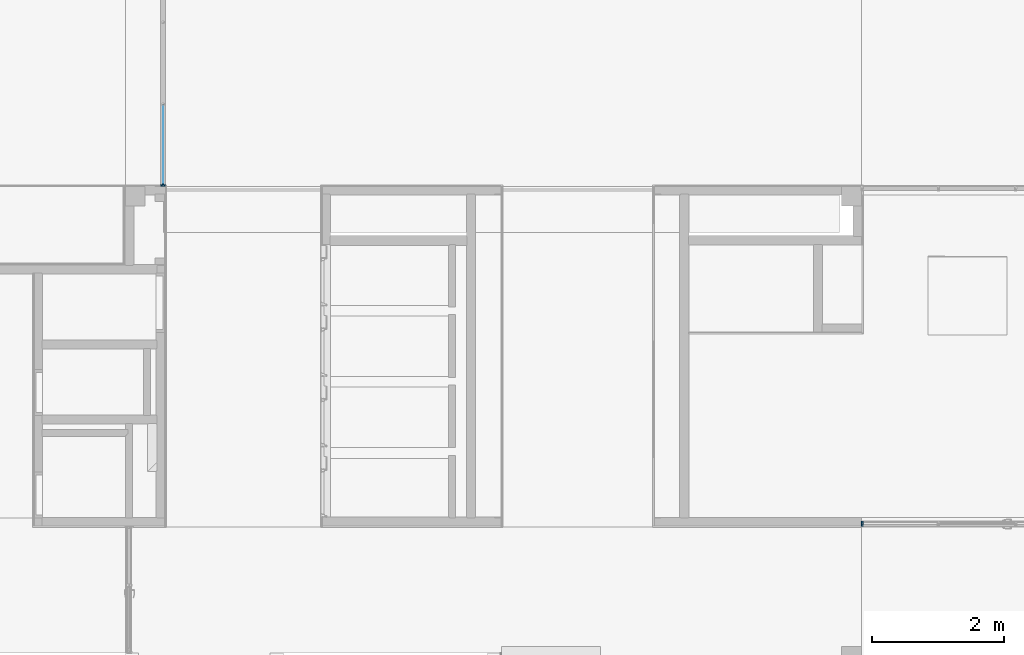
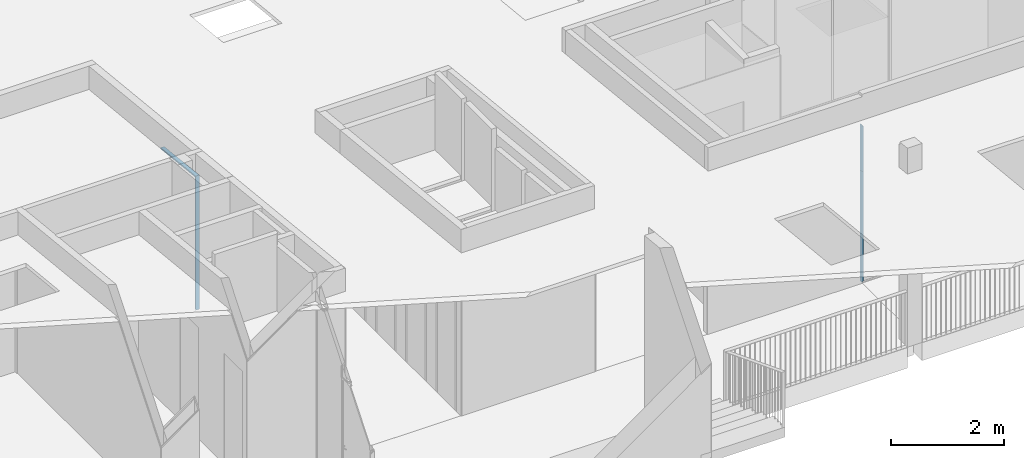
# One storey, part 14 of 43: 4 members, 2 elements without a shape of their own.
"""IFC2X3 building model written with IfcOpenShell, lengths in millimetres."""

import ifcopenshell
import ifcopenshell.guid

model = None  # the IFC model being written
_history = None  # IfcOwnerHistory: only IFC2X3 demands one
_inside = {}  # id of a spatial element -> (the spatial element, [elements in it])
_under = {}  # id of a project, library or spatial element -> (it, [spatial elements below it])
_declared = {}  # id of a project -> (the project, [libraries it declares])
_typed = {}  # id of a type object -> (the type object, [elements of that type])
_made_of = {}  # id of a material, layer set ... -> (it, [elements and type objects made of it])


def new_model(schema):
    """Start an empty IFC model of exactly this schema.

    Asked for "IFC4X3", IfcOpenShell would pick the latest addendum, in which some entities
    have other attributes; the version numbers below select the first issue.
    IFC2X3 requires an IfcOwnerHistory on every rooted entity: one is made here for all.
    """
    global model, _history
    if schema == "IFC4X3":
        model = ifcopenshell.file(schema_version=(4, 3, 0, 0))
    else:
        model = ifcopenshell.file(schema=schema)
    _inside.clear()
    _under.clear()
    _declared.clear()
    _typed.clear()
    _made_of.clear()
    _history = None
    if model.schema == "IFC2X3":
        org = make("IfcOrganization", Name="unknown")
        user = make(
            "IfcPersonAndOrganization",
            ThePerson=make("IfcPerson", FamilyName="unknown"),
            TheOrganization=org,
        )
        app = make(
            "IfcApplication",
            ApplicationDeveloper=org,
            Version="unknown",
            ApplicationFullName="unknown",
            ApplicationIdentifier="unknown",
        )
        _history = make(
            "IfcOwnerHistory",
            OwningUser=user,
            OwningApplication=app,
            ChangeAction="ADDED",
            CreationDate=0,
        )
    return model


def make(cls, **values):
    """One entity of the class cls with the attributes given. An attribute that is None is left unset."""
    return model.create_entity(
        cls, **{name: value for name, value in values.items() if value is not None}
    )


def entity(cls, *values):
    """Any entity or typed value of the class cls, its attributes in the order of the schema. None: left unset."""
    e = model.create_entity(cls)
    for i, value in enumerate(values):
        if value is not None:
            e[i] = value
    return e


def rooted(cls, **values):
    """An entity with a GlobalId (a new one), such as an element, a storey or a relation."""
    return make(cls, GlobalId=ifcopenshell.guid.new(), OwnerHistory=_history, **values)


def si_unit(unit_type, name, prefix=None):
    """IfcSIUnit, for example si_unit("LENGTHUNIT", "METRE", prefix="MILLI")."""
    return make("IfcSIUnit", UnitType=unit_type, Prefix=prefix, Name=name)


def converted_unit(unit_type, name, factor, base, dimensions=None, offset=None):
    """IfcConversionBasedUnit, such as the inch: factor (a typed value) times the base unit."""
    return make(
        "IfcConversionBasedUnit"
        if offset is None
        else "IfcConversionBasedUnitWithOffset",
        ConversionOffset=offset,
        Dimensions=None
        if dimensions is None
        else entity("IfcDimensionalExponents", *dimensions),
        UnitType=unit_type,
        Name=name,
        ConversionFactor=make(
            "IfcMeasureWithUnit", ValueComponent=factor, UnitComponent=base
        ),
    )


def derived_unit(unit_type, elements):
    """IfcDerivedUnit: a product of units, each with its exponent."""
    return make(
        "IfcDerivedUnit",
        Elements=[
            make("IfcDerivedUnitElement", Unit=unit, Exponent=power)
            for unit, power in elements
        ],
        UnitType=unit_type,
    )


def money_unit(currency):
    """IfcMonetaryUnit."""
    return make("IfcMonetaryUnit", Currency=currency)


def assignment(units):
    """IfcUnitAssignment: the units of a project."""
    return None if units is None else make("IfcUnitAssignment", Units=units)


def point(xyz):
    """IfcCartesianPoint."""
    return None if xyz is None else make("IfcCartesianPoint", Coordinates=xyz)


def direction(xyz):
    """IfcDirection."""
    return None if xyz is None else make("IfcDirection", DirectionRatios=xyz)


def frame(location, z_axis=None, x_axis=None):
    """IfcAxis2Placement3D, a coordinate frame: its origin and axes. An axis left out is left unset."""
    return make(
        "IfcAxis2Placement3D",
        Location=point(location),
        Axis=direction(z_axis),
        RefDirection=direction(x_axis),
    )


def origin_with_axes():
    """The frame at (0, 0, 0) with the z axis (0, 0, 1) and the x axis (1, 0, 0) written out."""
    return frame((0.0, 0.0, 0.0), z_axis=(0.0, 0.0, 1.0), x_axis=(1.0, 0.0, 0.0))


def place(relative_to, where):
    """IfcLocalPlacement: puts the frame where relative to a parent placement (None: the world)."""
    return make(
        "IfcLocalPlacement", PlacementRelTo=relative_to, RelativePlacement=where
    )


def context(
    kind, dimensions, precision=None, world=None, true_north=None, identifier=None
):
    """IfcGeometricRepresentationContext, for example the 3D "Model" context."""
    return make(
        "IfcGeometricRepresentationContext",
        ContextIdentifier=identifier,
        ContextType=kind,
        CoordinateSpaceDimension=dimensions,
        Precision=precision,
        WorldCoordinateSystem=world,
        TrueNorth=true_north,
    )


def subcontext(parent, identifier, kind, view, scale=None):
    """IfcGeometricRepresentationSubContext, for example "Body" below "Model"."""
    return make(
        "IfcGeometricRepresentationSubContext",
        ContextIdentifier=identifier,
        ContextType=kind,
        ParentContext=parent,
        TargetScale=scale,
        TargetView=view,
    )


def project(units=None, contexts=None):
    """IfcProject with its units and contexts."""
    return rooted(
        "IfcProject",
        Name="project",
        RepresentationContexts=contexts,
        UnitsInContext=assignment(units),
    )


def spatial(cls, under=None, at=None, **own):
    """A site, building, storey or space (cls), placed at a placement, below another one or the project."""
    s = rooted(cls, ObjectPlacement=at, **own)
    if under is not None:
        _under.setdefault(under.id(), (under, []))[1].append(s)
    return s


def faces_of(points, faces, orient=None, outer=None):
    """IfcFace entities. A face is a list of loops; a loop is a list of indices into points, from 0.

    orient and outer hold one flag for each loop. By default every Orientation is true, the
    first loop of a face is its IfcFaceOuterBound and the others are IfcFaceBound.
    """
    made = []
    for i, loops in enumerate(faces):
        bounds = []
        for j, loop in enumerate(loops):
            is_outer = j == 0 if outer is None else outer[i][j]
            bounds.append(
                make(
                    "IfcFaceOuterBound" if is_outer else "IfcFaceBound",
                    Bound=make("IfcPolyLoop", Polygon=[points[k] for k in loop]),
                    Orientation=True if orient is None else orient[i][j],
                )
            )
        made.append(make("IfcFace", Bounds=bounds))
    return made


def faceted_brep(points, faces, orient=None, outer=None, voids=None):
    """IfcFacetedBrep: a solid bounded by flat faces; with voids (closed shells), ...WithVoids."""
    shared = [point(p) for p in points]
    hull = make("IfcClosedShell", CfsFaces=faces_of(shared, faces, orient, outer))
    if voids is None:
        return make("IfcFacetedBrep", Outer=hull)
    return make(
        "IfcFacetedBrepWithVoids",
        Outer=hull,
        Voids=[
            make(cls, CfsFaces=faces_of(shared, fs, o, b)) for cls, fs, o, b in voids
        ],
    )


def shape(context_of_items, identifier, shape_type, items):
    """IfcShapeRepresentation: the items that make up one representation, for example the "Body"."""
    return make(
        "IfcShapeRepresentation",
        ContextOfItems=context_of_items,
        RepresentationIdentifier=identifier,
        RepresentationType=shape_type,
        Items=items,
    )


def material(Name=None, Category=None):
    """IfcMaterial."""
    return make("IfcMaterial", Name=Name, Category=Category)


def material_list(materials):
    """IfcMaterialList."""
    return make("IfcMaterialList", Materials=materials)


def made_of(thing, what):
    """Note that an element or type object is made of a material, layer set ...; save() writes the relation."""
    if what is not None:
        _made_of.setdefault(what.id(), (what, []))[1].append(thing)
    return thing


def type_object(cls, material=None, **own):
    """A type object (cls), such as IfcWallType, which elements share."""
    return made_of(rooted(cls, **own), material)


def element(
    cls,
    number,
    at=None,
    inside=None,
    cuts=None,
    type_object=None,
    material=None,
    context=None,
    identifier="Body",
    shape_type=None,
    held_by="IfcProductDefinitionShape",
    body=None,
    shapes=None,
    **own,
):
    """One element of the class cls, such as IfcWall. Its Tag is "e" and its number.

    at: its placement. inside: the storey or other place that contains it. cuts: it is an
    opening in that element (IfcRelVoidsElement). A single representation is given by context,
    identifier, shape_type and body (its items); several are given by shapes. held_by: the class
    of the entity that holds the representations. save() writes the other relations.
    """
    e = rooted(cls, Tag="e%d" % number, ObjectPlacement=at, **own)
    if body is not None:
        shapes = [shape(context, identifier, shape_type, body)]
    if shapes is not None:
        e.Representation = make(held_by, Representations=shapes)
    if inside is not None:
        _inside.setdefault(inside.id(), (inside, []))[1].append(e)
    if cuts is not None:
        rooted(
            "IfcRelVoidsElement", RelatingBuildingElement=cuts, RelatedOpeningElement=e
        )
    if type_object is not None:
        _typed.setdefault(type_object.id(), (type_object, []))[1].append(e)
    return made_of(e, material)


def aggregate(whole, parts):
    """IfcRelAggregates: a whole, such as a stair, and the parts it consists of."""
    return rooted("IfcRelAggregates", RelatingObject=whole, RelatedObjects=parts)


def save(model, path):
    """Write the relations noted so far, then the file.

    IfcRelAggregates (storeys below a building ...), IfcRelContainedInSpatialStructure (elements
    in a storey), IfcRelDefinesByType, IfcRelAssociatesMaterial and IfcRelDeclares: one each for
    every whole, place, type object, material and project.
    """
    for whole, parts in _under.values():
        aggregate(whole, parts)
    for where, things in _inside.values():
        rooted(
            "IfcRelContainedInSpatialStructure",
            RelatedElements=things,
            RelatingStructure=where,
        )
    for kind, things in _typed.values():
        rooted("IfcRelDefinesByType", RelatedObjects=things, RelatingType=kind)
    for what, things in _made_of.values():
        rooted("IfcRelAssociatesMaterial", RelatedObjects=things, RelatingMaterial=what)
    for by, libraries in _declared.values():
        rooted("IfcRelDeclares", RelatingContext=by, RelatedDefinitions=libraries)
    model.write(path)


model = new_model("IFC2X3")

# Units and contexts
model_context = context("Model", 3, precision=0.01, world=origin_with_axes(), true_north=direction((0.0, 1.0)))
body_context = subcontext(model_context, "Body", "Model", "MODEL_VIEW")
ifc_project = project(units=[si_unit("LENGTHUNIT", "METRE", prefix="MILLI"), si_unit("AREAUNIT", "SQUARE_METRE"), si_unit("VOLUMEUNIT", "CUBIC_METRE"), converted_unit("PLANEANGLEUNIT", "DEGREE", entity("IfcPlaneAngleMeasure", 0.0174532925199), si_unit("PLANEANGLEUNIT", "RADIAN"), dimensions=[0, 0, 0, 0, 0, 0, 0]), si_unit("SOLIDANGLEUNIT", "STERADIAN"), money_unit("EUR"), converted_unit("TIMEUNIT", "Year", entity("IfcTimeMeasure", 31556926.0), si_unit("TIMEUNIT", "SECOND"), dimensions=[0, 0, 1, 0, 0, 0, 0]), si_unit("MASSUNIT", "GRAM", prefix="KILO"), si_unit("THERMODYNAMICTEMPERATUREUNIT", "DEGREE_CELSIUS"), si_unit("LUMINOUSINTENSITYUNIT", "LUMEN"), si_unit("ENERGYUNIT", "JOULE", prefix="MEGA"), derived_unit("THERMALCONDUCTANCEUNIT", [(si_unit("POWERUNIT", "WATT"), 1), (si_unit("LENGTHUNIT", "METRE"), -1), (si_unit("THERMODYNAMICTEMPERATUREUNIT", "KELVIN"), -1)]), derived_unit("SPECIFICHEATCAPACITYUNIT", [(si_unit("ENERGYUNIT", "JOULE"), 1), (si_unit("MASSUNIT", "GRAM", prefix="KILO"), -1), (si_unit("THERMODYNAMICTEMPERATUREUNIT", "KELVIN"), -1)]), derived_unit("MASSDENSITYUNIT", [(si_unit("MASSUNIT", "GRAM", prefix="KILO"), 1), (si_unit("VOLUMEUNIT", "CUBIC_METRE"), -1)])], contexts=[model_context])

# Site, building, storey
site_placement = place(None, origin_with_axes())
site = spatial("IfcSite", under=ifc_project, at=site_placement, Name="L.Koidula tn 11b", CompositionType="ELEMENT")
building_placement = place(site_placement, origin_with_axes())
building = spatial("IfcBuilding", under=site, at=building_placement, Name="Rakvere Riigigümnaasium", CompositionType="ELEMENT")
storey_placement = place(building_placement, frame((0.0, 0.0, 6665.0), z_axis=(0.0, 0.0, 1.0), x_axis=(1.0, 0.0, 0.0)))
storey = spatial("IfcBuildingStorey", under=building, at=storey_placement, Name="3.korrus +6,66", CompositionType="ELEMENT", Elevation=6665.0)

# Curtain wall, members
curtain_wall_type = type_object("IfcCurtainWallType", Name="Curtain Wall Type", PredefinedType="NOTDEFINED")
curtain_wall_1_placement = place(storey_placement, frame((47567.9999955, 27513.9554945, 0.0), z_axis=(0.0, 0.0, 1.0), x_axis=(1.0, 0.0, 0.0)))
curtain_wall_1 = element("IfcCurtainWall", 1, at=curtain_wall_1_placement, inside=storey, type_object=curtain_wall_type, Name="SKLF-27")
ifc_material_1 = material(Name="Klaasvill")
ifc_material_2 = material(Name="Teras RAL7012")
ifc_material_list = material_list([ifc_material_1, ifc_material_2])
member_type = type_object("IfcMemberType", Name="Boundary Frame 30 x 42", PredefinedType="MULLION")
member_1_placement = place(curtain_wall_1_placement, frame((0.0, -3113.5, 0.0), z_axis=(0.0, 0.0, 1.0), x_axis=(0.0, 1.0, 0.0)))
member_1 = element("IfcMember", 2, at=member_1_placement, type_object=member_type, material=ifc_material_list, Name="SKLF-04-raam", ObjectType="MULLION", context=body_context, shape_type="Brep", body=[
    faceted_brep([(13.8499999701, 15.000000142, 13.8499999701), (13.8499999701, 15.000000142, 2882.5468999), (7.49999990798, 15.000000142, 2889.63189211), (7.49999990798, 15.000000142, 7.49999990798), (13.8499999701, 29.0161444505, 13.8499999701), (13.8499999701, 29.0161444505, 2882.5468999), (7.49999990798, 29.0161444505, 2889.63189211), (7.49999990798, 29.0161444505, 7.49999990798)], [[[0, 1, 2, 3]], [[4, 5, 1, 0]], [[2, 1, 5, 6]], [[3, 2, 6, 7]], [[3, 7, 4, 0]], [[7, 6, 5, 4]]]),
    faceted_brep([(25.004489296, 27.0307503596, 25.004489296), (25.004489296, 27.0307503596, 2870.10131419), (24.987414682, 29.0161444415, 2870.12036514), (24.987414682, 29.0161444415, 24.987414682), (25.742237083, 26.2930025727, 25.742237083), (25.742237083, 26.2930025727, 2869.27817446), (26.7500193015, 26.0229681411, 2868.15374469), (27.75780152, 26.2930025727, 2867.02931491), (28.4955493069, 27.0307503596, 2866.20617518), (28.7655837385, 28.0385325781, 2865.90488513), (28.5126239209, 29.0161444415, 2866.18712423), (28.5126239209, 29.0161444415, 28.5126239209), (28.7655837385, 28.0385325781, 28.7655837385), (28.4955493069, 27.0307503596, 28.4955493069), (27.75780152, 26.2930025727, 27.75780152), (26.7500193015, 26.0229681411, 26.7500193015)], [[[0, 1, 2, 3]], [[4, 5, 1, 0]], [[2, 1, 5, 6, 7, 8, 9, 10]], [[3, 2, 10, 11]], [[3, 11, 12, 13, 14, 15, 4, 0]], [[15, 6, 5, 4]], [[14, 7, 6, 15]], [[13, 8, 7, 14]], [[12, 9, 8, 13]], [[11, 10, 9, 12]]]),
    faceted_brep([(7.49999990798, -39.0161445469, 7.49999990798), (7.49999990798, -39.0161445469, 2889.63189211), (7.49999990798, -24.9999997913, 2889.63189211), (7.49999990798, -24.9999997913, 7.49999990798), (13.8499999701, -39.0161445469, 13.8499999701), (13.8499999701, -39.0161445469, 2882.5468999), (13.8499999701, -24.9999997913, 2882.5468999), (13.8499999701, -24.9999997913, 13.8499999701)], [[[0, 1, 2, 3]], [[4, 5, 1, 0]], [[2, 1, 5, 6]], [[3, 2, 6, 7]], [[3, 7, 4, 0]], [[7, 6, 5, 4]]]),
    faceted_brep([(24.987414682, -39.0161444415, 24.987414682), (24.987414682, -39.0161444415, 2870.12036514), (25.004489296, -37.0307503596, 2870.10131419), (25.004489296, -37.0307503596, 25.004489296), (28.5126239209, -39.0161444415, 28.5126239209), (28.5126239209, -39.0161444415, 2866.18712423), (28.7655837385, -38.0385325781, 2865.90488513), (28.4955493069, -37.0307503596, 2866.20617518), (27.75780152, -36.2930025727, 2867.02931491), (26.7500193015, -36.0229681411, 2868.15374469), (25.742237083, -36.2930025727, 2869.27817446), (25.742237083, -36.2930025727, 25.742237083), (26.7500193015, -36.0229681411, 26.7500193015), (27.75780152, -36.2930025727, 27.75780152), (28.4955493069, -37.0307503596, 28.4955493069), (28.7655837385, -38.0385325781, 28.7655837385)], [[[0, 1, 2, 3]], [[4, 5, 1, 0]], [[2, 1, 5, 6, 7, 8, 9, 10]], [[3, 2, 10, 11]], [[3, 11, 12, 13, 14, 15, 4, 0]], [[15, 6, 5, 4]], [[14, 7, 6, 15]], [[13, 8, 7, 14]], [[12, 9, 8, 13]], [[11, 10, 9, 12]]]),
    faceted_brep([(29.5999996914, -22.0000000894, 29.5999996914), (29.5999996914, -22.0000000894, 2864.9738882), (0.0, -22.0000000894, 2897.99999297), (0.0, -22.0000000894, 0.0), (29.5999996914, 12.0000000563, 29.5999996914), (29.5999996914, 12.0000000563, 2864.9738882), (0.0, 12.0000000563, 2897.99999297), (1.9999999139, 10.0000001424, 2895.76849947), (18.7999996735, 10.0000001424, 2877.0239536), (18.7999996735, -20.0000001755, 2877.0239536), (1.9999999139, -20.0000001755, 2895.76849947), (0.0, 12.0000000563, 0.0), (1.9999999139, 10.0000001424, 1.9999999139), (1.9999999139, -20.0000001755, 1.9999999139), (18.7999996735, -20.0000001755, 18.7999996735), (18.7999996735, 10.0000001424, 18.7999996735)], [[[0, 1, 2, 3]], [[4, 5, 1, 0]], [[2, 1, 5, 6], [7, 8, 9, 10]], [[3, 2, 6, 11]], [[3, 11, 4, 0], [12, 13, 14, 15]], [[11, 6, 5, 4]], [[15, 8, 7, 12]], [[14, 9, 8, 15]], [[13, 10, 9, 14]], [[12, 7, 10, 13]]]),
    faceted_brep([(29.5999996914, 12.0000000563, 29.5999996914), (29.5999996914, 12.0000000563, 2864.9738882), (0.0, 12.0, 2897.99999297), (0.0, 12.0, 0.0), (30.0000193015, 12.0, 30.0000193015), (30.0000193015, 12.0, 2864.5275676), (30.0000193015, 15.0, 2864.5275676), (13.8499999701, 15.000000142, 2882.5468999), (7.49999999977, 15.0, 2889.63189201), (7.49999999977, 29.0161444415, 2889.63189201), (13.8499999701, 29.0161444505, 2882.5468999), (24.987414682, 29.0161444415, 2870.12036514), (28.5126239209, 29.0161444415, 2866.18712423), (30.0000193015, 29.0161444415, 2864.5275676), (30.0000193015, 32.0, 2864.5275676), (0.0, 32.0, 2897.99999297), (0.0, 32.0, 0.0), (30.0000193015, 32.0, 30.0000193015), (30.0000193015, 29.0161444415, 30.0000193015), (28.5126239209, 29.0161444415, 28.5126239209), (24.987414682, 29.0161444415, 24.987414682), (13.8499999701, 29.0161444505, 13.8499999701), (7.49999999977, 29.0161444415, 7.49999999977), (7.49999999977, 15.0, 7.49999999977), (13.8499999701, 15.000000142, 13.8499999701), (30.0000193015, 15.0, 30.0000193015)], [[[0, 1, 2, 3]], [[4, 5, 1, 0]], [[2, 1, 5, 6, 7, 8, 9, 10, 11, 12, 13, 14, 15]], [[3, 2, 15, 16]], [[3, 16, 17, 18, 19, 20, 21, 22, 23, 24, 25, 4, 0]], [[25, 6, 5, 4]], [[24, 7, 6, 25]], [[23, 8, 7, 24]], [[22, 9, 8, 23]], [[21, 10, 9, 22]], [[20, 11, 10, 21]], [[19, 12, 11, 20]], [[18, 13, 12, 19]], [[17, 14, 13, 18]], [[16, 15, 14, 17]]]),
    faceted_brep([(0.0, -42.0, 0.0), (0.0, -42.0, 2897.99999297), (0.0, -22.0, 2897.99999297), (0.0, -22.0, 0.0), (30.0000193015, -42.0, 30.0000193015), (30.0000193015, -42.0, 2864.5275676), (30.0000193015, -39.0161444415, 2864.5275676), (28.5126239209, -39.0161444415, 2866.18712423), (24.987414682, -39.0161444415, 2870.12036514), (13.8499999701, -39.0161445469, 2882.5468999), (7.49999999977, -39.0161444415, 2889.63189201), (7.49999999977, -25.0, 2889.63189201), (13.8499999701, -24.9999997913, 2882.5468999), (30.0000193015, -25.0, 2864.5275676), (30.0000193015, -22.0, 2864.5275676), (29.5999996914, -22.0000000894, 2864.9738882), (29.5999996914, -22.0000000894, 29.5999996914), (30.0000193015, -22.0, 30.0000193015), (30.0000193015, -25.0, 30.0000193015), (13.8499999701, -24.9999997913, 13.8499999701), (7.49999999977, -25.0, 7.49999999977), (7.49999999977, -39.0161444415, 7.49999999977), (13.8499999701, -39.0161445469, 13.8499999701), (24.987414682, -39.0161444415, 24.987414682), (28.5126239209, -39.0161444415, 28.5126239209), (30.0000193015, -39.0161444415, 30.0000193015)], [[[0, 1, 2, 3]], [[4, 5, 1, 0]], [[2, 1, 5, 6, 7, 8, 9, 10, 11, 12, 13, 14, 15]], [[3, 2, 15, 16]], [[3, 16, 17, 18, 19, 20, 21, 22, 23, 24, 25, 4, 0]], [[25, 6, 5, 4]], [[24, 7, 6, 25]], [[23, 8, 7, 24]], [[22, 9, 8, 23]], [[21, 10, 9, 22]], [[20, 11, 10, 21]], [[19, 12, 11, 20]], [[18, 13, 12, 19]], [[17, 14, 13, 18]], [[16, 15, 14, 17]]]),
])
member_2_placement = place(curtain_wall_1_placement, frame((0.0, -3113.5, 2897.99999297), z_axis=(0.0, 0.994032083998, -0.109088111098), x_axis=(0.0, -0.109088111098, -0.994032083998)))
member_2 = element("IfcMember", 3, at=member_2_placement, type_object=member_type, material=ifc_material_list, Name="SKLF-05-raam", ObjectType="MULLION", context=body_context, shape_type="Brep", body=[
    faceted_brep([(13.8499999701, 15.000000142, 15.453093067), (13.8499999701, 15.000000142, 1252.47466378), (7.49999990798, 15.000000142, 1252.47466378), (7.49999990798, 15.000000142, 8.36810085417), (13.8499999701, 29.0161444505, 15.453093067), (13.8499999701, 29.0161444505, 1252.47466378), (7.49999990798, 29.0161444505, 1252.47466378), (7.49999990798, 29.0161444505, 8.36810085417)], [[[0, 1, 2, 3]], [[4, 5, 1, 0]], [[2, 1, 5, 6]], [[3, 2, 6, 7]], [[3, 7, 4, 0]], [[7, 6, 5, 4]]]),
    faceted_brep([(25.004489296, 27.0307503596, 27.8986787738), (25.004489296, 27.0307503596, 1252.47466378), (24.987414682, 29.0161444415, 1252.47466378), (24.987414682, 29.0161444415, 27.879627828), (25.742237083, 26.2930025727, 28.721818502), (25.742237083, 26.2930025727, 1252.47466378), (26.7500193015, 26.0229681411, 1252.47466378), (27.75780152, 26.2930025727, 1252.47466378), (28.4955493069, 27.0307503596, 1252.47466378), (28.7655837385, 28.0385325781, 1252.47466378), (28.5126239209, 29.0161444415, 1252.47466378), (28.5126239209, 29.0161444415, 31.8128687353), (28.7655837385, 28.0385325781, 32.0951078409), (28.4955493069, 27.0307503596, 31.7938177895), (27.75780152, 26.2930025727, 30.9706780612), (26.7500193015, 26.0229681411, 29.8462482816)], [[[0, 1, 2, 3]], [[4, 5, 1, 0]], [[2, 1, 5, 6, 7, 8, 9, 10]], [[3, 2, 10, 11]], [[3, 11, 12, 13, 14, 15, 4, 0]], [[15, 6, 5, 4]], [[14, 7, 6, 15]], [[13, 8, 7, 14]], [[12, 9, 8, 13]], [[11, 10, 9, 12]]]),
    faceted_brep([(7.49999990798, -39.0161445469, 8.36810085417), (7.49999990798, -39.0161445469, 1252.47466378), (7.49999990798, -24.9999997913, 1252.47466378), (7.49999990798, -24.9999997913, 8.36810085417), (13.8499999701, -39.0161445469, 15.453093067), (13.8499999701, -39.0161445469, 1252.47466378), (13.8499999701, -24.9999997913, 1252.47466378), (13.8499999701, -24.9999997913, 15.453093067)], [[[0, 1, 2, 3]], [[4, 5, 1, 0]], [[2, 1, 5, 6]], [[3, 2, 6, 7]], [[3, 7, 4, 0]], [[7, 6, 5, 4]]]),
    faceted_brep([(24.987414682, -39.0161444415, 27.879627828), (24.987414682, -39.0161444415, 1252.47466378), (25.004489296, -37.0307503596, 1252.47466378), (25.004489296, -37.0307503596, 27.8986787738), (28.5126239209, -39.0161444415, 31.8128687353), (28.5126239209, -39.0161444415, 1252.47466378), (28.7655837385, -38.0385325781, 1252.47466378), (28.4955493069, -37.0307503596, 1252.47466378), (27.75780152, -36.2930025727, 1252.47466378), (26.7500193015, -36.0229681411, 1252.47466378), (25.742237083, -36.2930025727, 1252.47466378), (25.742237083, -36.2930025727, 28.721818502), (26.7500193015, -36.0229681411, 29.8462482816), (27.75780152, -36.2930025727, 30.9706780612), (28.4955493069, -37.0307503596, 31.7938177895), (28.7655837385, -38.0385325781, 32.0951078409)], [[[0, 1, 2, 3]], [[4, 5, 1, 0]], [[2, 1, 5, 6, 7, 8, 9, 10]], [[3, 2, 10, 11]], [[3, 11, 12, 13, 14, 15, 4, 0]], [[15, 6, 5, 4]], [[14, 7, 6, 15]], [[13, 8, 7, 14]], [[12, 9, 8, 13]], [[11, 10, 9, 12]]]),
    faceted_brep([(29.5999996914, -22.0000000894, 33.0261047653), (29.5999996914, -22.0000000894, 1252.47466378), (0.0, -22.0000000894, 1252.47466378), (0.0, -22.0000000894, 0.0), (29.5999996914, 12.0000000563, 33.0261047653), (29.5999996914, 12.0000000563, 1252.47466378), (0.0, 12.0000000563, 1252.47466378), (1.9999999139, 10.0000001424, 1252.47466378), (18.7999996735, 10.0000001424, 1252.47466378), (18.7999996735, -20.0000001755, 1252.47466378), (1.9999999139, -20.0000001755, 1252.47466378), (0.0, 12.0000000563, 0.0), (1.9999999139, 10.0000001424, 2.23149349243), (1.9999999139, -20.0000001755, 2.23149349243), (18.7999996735, -20.0000001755, 20.9760393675), (18.7999996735, 10.0000001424, 20.9760393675)], [[[0, 1, 2, 3]], [[4, 5, 1, 0]], [[2, 1, 5, 6], [7, 8, 9, 10]], [[3, 2, 6, 11]], [[3, 11, 4, 0], [12, 13, 14, 15]], [[11, 6, 5, 4]], [[15, 8, 7, 12]], [[14, 9, 8, 15]], [[13, 10, 9, 14]], [[12, 7, 10, 13]]]),
    faceted_brep([(29.5999996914, 12.0000000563, 33.0261047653), (29.5999996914, 12.0000000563, 1252.47466378), (0.0, 12.0, 1252.47466378), (0.0, 12.0, 0.0), (30.0000193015, 12.0, 33.4724253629), (30.0000193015, 12.0, 1252.47466378), (30.0000193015, 15.0, 1252.47466378), (13.8499999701, 15.000000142, 1252.47466378), (7.49999999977, 15.0, 1252.47466378), (7.49999999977, 29.0161444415, 1252.47466378), (13.8499999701, 29.0161444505, 1252.47466378), (24.987414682, 29.0161444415, 1252.47466378), (28.5126239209, 29.0161444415, 1252.47466378), (30.0000193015, 29.0161444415, 1252.47466378), (30.0000193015, 32.0, 1252.47466378), (0.0, 32.0, 1252.47466378), (0.0, 32.0, 0.0), (30.0000193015, 32.0, 33.4724253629), (30.0000193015, 29.0161444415, 33.4724253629), (28.5126239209, 29.0161444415, 31.8128687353), (24.987414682, 29.0161444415, 27.879627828), (13.8499999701, 29.0161444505, 15.453093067), (7.49999999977, 29.0161444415, 8.36810095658), (7.49999999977, 15.0, 8.36810095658), (13.8499999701, 15.000000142, 15.453093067), (30.0000193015, 15.0, 33.4724253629)], [[[0, 1, 2, 3]], [[4, 5, 1, 0]], [[2, 1, 5, 6, 7, 8, 9, 10, 11, 12, 13, 14, 15]], [[3, 2, 15, 16]], [[3, 16, 17, 18, 19, 20, 21, 22, 23, 24, 25, 4, 0]], [[25, 6, 5, 4]], [[24, 7, 6, 25]], [[23, 8, 7, 24]], [[22, 9, 8, 23]], [[21, 10, 9, 22]], [[20, 11, 10, 21]], [[19, 12, 11, 20]], [[18, 13, 12, 19]], [[17, 14, 13, 18]], [[16, 15, 14, 17]]]),
    faceted_brep([(0.0, -42.0, 0.0), (0.0, -42.0, 1252.47466378), (0.0, -22.0, 1252.47466378), (0.0, -22.0, 0.0), (30.0000193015, -42.0, 33.4724253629), (30.0000193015, -42.0, 1252.47466378), (30.0000193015, -39.0161444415, 1252.47466378), (28.5126239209, -39.0161444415, 1252.47466378), (24.987414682, -39.0161444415, 1252.47466378), (13.8499999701, -39.0161445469, 1252.47466378), (7.49999999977, -39.0161444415, 1252.47466378), (7.49999999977, -25.0, 1252.47466378), (13.8499999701, -24.9999997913, 1252.47466378), (30.0000193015, -25.0, 1252.47466378), (30.0000193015, -22.0, 1252.47466378), (29.5999996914, -22.0000000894, 1252.47466378), (29.5999996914, -22.0000000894, 33.0261047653), (30.0000193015, -22.0, 33.4724253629), (30.0000193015, -25.0, 33.4724253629), (13.8499999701, -24.9999997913, 15.453093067), (7.49999999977, -25.0, 8.36810095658), (7.49999999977, -39.0161444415, 8.36810095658), (13.8499999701, -39.0161445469, 15.453093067), (24.987414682, -39.0161444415, 27.879627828), (28.5126239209, -39.0161444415, 31.8128687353), (30.0000193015, -39.0161444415, 33.4724253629)], [[[0, 1, 2, 3]], [[4, 5, 1, 0]], [[2, 1, 5, 6, 7, 8, 9, 10, 11, 12, 13, 14, 15]], [[3, 2, 15, 16]], [[3, 16, 17, 18, 19, 20, 21, 22, 23, 24, 25, 4, 0]], [[25, 6, 5, 4]], [[24, 7, 6, 25]], [[23, 8, 7, 24]], [[22, 9, 8, 23]], [[21, 10, 9, 22]], [[20, 11, 10, 21]], [[19, 12, 11, 20]], [[18, 13, 12, 19]], [[17, 14, 13, 18]], [[16, 15, 14, 17]]]),
])
aggregate(curtain_wall_1, [member_1, member_2])

curtain_wall_2_placement = place(storey_placement, frame((58878.6347232, 19272.4397072, 0.0), z_axis=(0.0, 0.0, 1.0), x_axis=(1.0, 0.0, 0.0)))
curtain_wall_2 = element("IfcCurtainWall", 4, at=curtain_wall_2_placement, inside=storey, type_object=curtain_wall_type, Name="SKLF-29")
member_3_placement = place(curtain_wall_2_placement, frame((-698.599998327, 0.0, 0.0), z_axis=(0.0, 0.0, 1.0), x_axis=(-1.0, 0.0, 0.0)))
member_3 = element("IfcMember", 5, at=member_3_placement, type_object=member_type, material=ifc_material_list, Name="SKLF-36-raam", ObjectType="MULLION", context=body_context, shape_type="Brep", body=[
    faceted_brep([(-13.8499999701, 15.000000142, 13.8499999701), (-7.49999990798, 15.000000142, 7.49999990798), (-7.49999990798, 15.000000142, 2400.0), (-13.8499999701, 15.000000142, 2400.0), (-13.8499999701, 29.0161444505, 13.8499999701), (-7.49999990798, 29.0161444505, 7.49999990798), (-7.49999990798, 29.0161444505, 2400.0), (-13.8499999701, 29.0161444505, 2400.0)], [[[0, 1, 2, 3]], [[1, 0, 4, 5]], [[1, 5, 6, 2]], [[2, 6, 7, 3]], [[4, 0, 3, 7]], [[5, 4, 7, 6]]]),
    faceted_brep([(-25.004489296, 27.0307503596, 25.004489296), (-24.987414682, 29.0161444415, 24.987414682), (-24.987414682, 29.0161444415, 2400.0), (-25.004489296, 27.0307503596, 2400.0), (-25.742237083, 26.2930025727, 25.742237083), (-26.7500193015, 26.0229681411, 26.7500193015), (-27.75780152, 26.2930025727, 27.75780152), (-28.4955493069, 27.0307503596, 28.4955493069), (-28.7655837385, 28.0385325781, 28.7655837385), (-28.5126239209, 29.0161444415, 28.5126239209), (-28.5126239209, 29.0161444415, 2400.0), (-28.7655837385, 28.0385325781, 2400.0), (-28.4955493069, 27.0307503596, 2400.0), (-27.75780152, 26.2930025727, 2400.0), (-26.7500193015, 26.0229681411, 2400.0), (-25.742237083, 26.2930025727, 2400.0)], [[[0, 1, 2, 3]], [[1, 0, 4, 5, 6, 7, 8, 9]], [[1, 9, 10, 2]], [[2, 10, 11, 12, 13, 14, 15, 3]], [[4, 0, 3, 15]], [[5, 4, 15, 14]], [[6, 5, 14, 13]], [[7, 6, 13, 12]], [[8, 7, 12, 11]], [[9, 8, 11, 10]]]),
    faceted_brep([(-7.49999990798, -39.0161445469, 7.49999990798), (-7.49999990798, -24.9999997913, 7.49999990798), (-7.49999990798, -24.9999997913, 2400.0), (-7.49999990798, -39.0161445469, 2400.0), (-13.8499999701, -39.0161445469, 13.8499999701), (-13.8499999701, -24.9999997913, 13.8499999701), (-13.8499999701, -24.9999997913, 2400.0), (-13.8499999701, -39.0161445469, 2400.0)], [[[0, 1, 2, 3]], [[1, 0, 4, 5]], [[1, 5, 6, 2]], [[2, 6, 7, 3]], [[4, 0, 3, 7]], [[5, 4, 7, 6]]]),
    faceted_brep([(-24.987414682, -39.0161444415, 24.987414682), (-25.004489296, -37.0307503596, 25.004489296), (-25.004489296, -37.0307503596, 2400.0), (-24.987414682, -39.0161444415, 2400.0), (-28.5126239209, -39.0161444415, 28.5126239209), (-28.7655837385, -38.0385325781, 28.7655837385), (-28.4955493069, -37.0307503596, 28.4955493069), (-27.75780152, -36.2930025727, 27.75780152), (-26.7500193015, -36.0229681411, 26.7500193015), (-25.742237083, -36.2930025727, 25.742237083), (-25.742237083, -36.2930025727, 2400.0), (-26.7500193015, -36.0229681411, 2400.0), (-27.75780152, -36.2930025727, 2400.0), (-28.4955493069, -37.0307503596, 2400.0), (-28.7655837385, -38.0385325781, 2400.0), (-28.5126239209, -39.0161444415, 2400.0)], [[[0, 1, 2, 3]], [[1, 0, 4, 5, 6, 7, 8, 9]], [[1, 9, 10, 2]], [[2, 10, 11, 12, 13, 14, 15, 3]], [[4, 0, 3, 15]], [[5, 4, 15, 14]], [[6, 5, 14, 13]], [[7, 6, 13, 12]], [[8, 7, 12, 11]], [[9, 8, 11, 10]]]),
    faceted_brep([(-29.5999996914, -22.0000000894, 29.5999996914), (0.0, -22.0000000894, 0.0), (0.0, -22.0000000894, 2400.0), (-29.5999996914, -22.0000000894, 2400.0), (-29.5999996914, 12.0000000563, 29.5999996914), (0.0, 12.0000000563, 0.0), (-1.9999999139, 10.0000001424, 1.9999999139), (-18.7999996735, 10.0000001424, 18.7999996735), (-18.7999996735, -20.0000001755, 18.7999996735), (-1.9999999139, -20.0000001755, 1.9999999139), (0.0, 12.0000000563, 2400.0), (-29.5999996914, 12.0000000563, 2400.0), (-1.9999999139, 10.0000001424, 2400.0), (-1.9999999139, -20.0000001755, 2400.0), (-18.7999996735, -20.0000001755, 2400.0), (-18.7999996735, 10.0000001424, 2400.0)], [[[0, 1, 2, 3]], [[1, 0, 4, 5], [6, 7, 8, 9]], [[1, 5, 10, 2]], [[2, 10, 11, 3], [12, 13, 14, 15]], [[4, 0, 3, 11]], [[5, 4, 11, 10]], [[7, 6, 12, 15]], [[8, 7, 15, 14]], [[9, 8, 14, 13]], [[6, 9, 13, 12]]]),
    faceted_brep([(-29.5999996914, 12.0000000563, 29.5999996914), (0.0, 12.0, 0.0), (0.0, 12.0, 2400.0), (-29.5999996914, 12.0000000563, 2400.0), (-30.0000193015, 12.0, 30.0000193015), (-30.0000193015, 15.0, 30.0000193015), (-13.8499999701, 15.000000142, 13.8499999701), (-7.49999999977, 15.0, 7.49999999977), (-7.49999999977, 29.0161444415, 7.49999999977), (-13.8499999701, 29.0161444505, 13.8499999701), (-24.987414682, 29.0161444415, 24.987414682), (-28.5126239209, 29.0161444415, 28.5126239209), (-30.0000193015, 29.0161444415, 30.0000193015), (-30.0000193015, 32.0, 30.0000193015), (0.0, 32.0, 0.0), (0.0, 32.0, 2400.0), (-30.0000193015, 32.0, 2400.0), (-30.0000193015, 29.0161444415, 2400.0), (-28.5126239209, 29.0161444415, 2400.0), (-24.987414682, 29.0161444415, 2400.0), (-13.8499999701, 29.0161444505, 2400.0), (-7.49999999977, 29.0161444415, 2400.0), (-7.49999999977, 15.0, 2400.0), (-13.8499999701, 15.000000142, 2400.0), (-30.0000193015, 15.0, 2400.0), (-30.0000193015, 12.0, 2400.0)], [[[0, 1, 2, 3]], [[1, 0, 4, 5, 6, 7, 8, 9, 10, 11, 12, 13, 14]], [[1, 14, 15, 2]], [[2, 15, 16, 17, 18, 19, 20, 21, 22, 23, 24, 25, 3]], [[4, 0, 3, 25]], [[5, 4, 25, 24]], [[6, 5, 24, 23]], [[7, 6, 23, 22]], [[8, 7, 22, 21]], [[9, 8, 21, 20]], [[10, 9, 20, 19]], [[11, 10, 19, 18]], [[12, 11, 18, 17]], [[13, 12, 17, 16]], [[14, 13, 16, 15]]]),
    faceted_brep([(0.0, -42.0, 0.0), (0.0, -22.0, 0.0), (0.0, -22.0, 2400.0), (0.0, -42.0, 2400.0), (-30.0000193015, -42.0, 30.0000193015), (-30.0000193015, -39.0161444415, 30.0000193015), (-28.5126239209, -39.0161444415, 28.5126239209), (-24.987414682, -39.0161444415, 24.987414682), (-13.8499999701, -39.0161445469, 13.8499999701), (-7.49999999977, -39.0161444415, 7.49999999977), (-7.49999999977, -25.0, 7.49999999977), (-13.8499999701, -24.9999997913, 13.8499999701), (-30.0000193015, -25.0, 30.0000193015), (-30.0000193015, -22.0, 30.0000193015), (-29.5999996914, -22.0000000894, 29.5999996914), (-29.5999996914, -22.0000000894, 2400.0), (-30.0000193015, -22.0, 2400.0), (-30.0000193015, -25.0, 2400.0), (-13.8499999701, -24.9999997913, 2400.0), (-7.49999999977, -25.0, 2400.0), (-7.49999999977, -39.0161444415, 2400.0), (-13.8499999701, -39.0161445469, 2400.0), (-24.987414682, -39.0161444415, 2400.0), (-28.5126239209, -39.0161444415, 2400.0), (-30.0000193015, -39.0161444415, 2400.0), (-30.0000193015, -42.0, 2400.0)], [[[0, 1, 2, 3]], [[1, 0, 4, 5, 6, 7, 8, 9, 10, 11, 12, 13, 14]], [[1, 14, 15, 2]], [[2, 15, 16, 17, 18, 19, 20, 21, 22, 23, 24, 25, 3]], [[4, 0, 3, 25]], [[5, 4, 25, 24]], [[6, 5, 24, 23]], [[7, 6, 23, 22]], [[8, 7, 22, 21]], [[9, 8, 21, 20]], [[10, 9, 20, 19]], [[11, 10, 19, 18]], [[12, 11, 18, 17]], [[13, 12, 17, 16]], [[14, 13, 16, 15]]]),
])
member_4_placement = place(curtain_wall_2_placement, frame((-698.599998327, 0.0, 2400.0), z_axis=(0.0, 0.0, 1.0), x_axis=(-1.0, 0.0, 0.0)))
member_4 = element("IfcMember", 6, at=member_4_placement, type_object=member_type, material=ifc_material_list, Name="SKLF-35-raam", ObjectType="MULLION", context=body_context, shape_type="Brep", body=[
    faceted_brep([(-7.49999990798, 15.000000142, 0.0), (-7.49999990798, 15.000000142, 992.500000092), (-13.8499999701, 15.000000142, 986.15000003), (-13.8499999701, 15.000000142, 0.0), (-7.49999990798, 29.0161444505, 0.0), (-7.49999990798, 29.0161444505, 992.500000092), (-13.8499999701, 29.0161444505, 986.15000003), (-13.8499999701, 29.0161444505, 0.0)], [[[0, 1, 2, 3]], [[4, 5, 1, 0]], [[1, 5, 6, 2]], [[3, 2, 6, 7]], [[0, 3, 7, 4]], [[7, 6, 5, 4]]]),
    faceted_brep([(-24.987414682, 29.0161444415, 0.0), (-24.987414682, 29.0161444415, 975.012585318), (-25.004489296, 27.0307503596, 974.995510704), (-25.004489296, 27.0307503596, 0.0), (-28.5126239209, 29.0161444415, 0.0), (-28.5126239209, 29.0161444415, 971.487376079), (-28.7655837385, 28.0385325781, 971.234416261), (-28.4955493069, 27.0307503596, 971.504450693), (-27.75780152, 26.2930025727, 972.24219848), (-26.7500193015, 26.0229681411, 973.249980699), (-25.742237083, 26.2930025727, 974.257762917), (-25.742237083, 26.2930025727, 0.0), (-26.7500193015, 26.0229681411, 0.0), (-27.75780152, 26.2930025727, 0.0), (-28.4955493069, 27.0307503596, 0.0), (-28.7655837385, 28.0385325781, 0.0)], [[[0, 1, 2, 3]], [[4, 5, 1, 0]], [[1, 5, 6, 7, 8, 9, 10, 2]], [[3, 2, 10, 11]], [[0, 3, 11, 12, 13, 14, 15, 4]], [[15, 6, 5, 4]], [[14, 7, 6, 15]], [[13, 8, 7, 14]], [[12, 9, 8, 13]], [[11, 10, 9, 12]]]),
    faceted_brep([(-7.49999990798, -24.9999997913, 0.0), (-7.49999990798, -24.9999997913, 992.500000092), (-7.49999990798, -39.0161445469, 992.500000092), (-7.49999990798, -39.0161445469, 0.0), (-13.8499999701, -24.9999997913, 0.0), (-13.8499999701, -24.9999997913, 986.15000003), (-13.8499999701, -39.0161445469, 986.15000003), (-13.8499999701, -39.0161445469, 0.0)], [[[0, 1, 2, 3]], [[4, 5, 1, 0]], [[1, 5, 6, 2]], [[3, 2, 6, 7]], [[0, 3, 7, 4]], [[7, 6, 5, 4]]]),
    faceted_brep([(-25.004489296, -37.0307503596, 0.0), (-25.004489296, -37.0307503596, 974.995510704), (-24.987414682, -39.0161444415, 975.012585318), (-24.987414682, -39.0161444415, 0.0), (-25.742237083, -36.2930025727, 0.0), (-25.742237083, -36.2930025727, 974.257762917), (-26.7500193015, -36.0229681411, 973.249980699), (-27.75780152, -36.2930025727, 972.24219848), (-28.4955493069, -37.0307503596, 971.504450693), (-28.7655837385, -38.0385325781, 971.234416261), (-28.5126239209, -39.0161444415, 971.487376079), (-28.5126239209, -39.0161444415, 0.0), (-28.7655837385, -38.0385325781, 0.0), (-28.4955493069, -37.0307503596, 0.0), (-27.75780152, -36.2930025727, 0.0), (-26.7500193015, -36.0229681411, 0.0)], [[[0, 1, 2, 3]], [[4, 5, 1, 0]], [[1, 5, 6, 7, 8, 9, 10, 2]], [[3, 2, 10, 11]], [[0, 3, 11, 12, 13, 14, 15, 4]], [[15, 6, 5, 4]], [[14, 7, 6, 15]], [[13, 8, 7, 14]], [[12, 9, 8, 13]], [[11, 10, 9, 12]]]),
    faceted_brep([(0.0, -22.0000000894, 0.0), (0.0, -22.0000000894, 1000.0), (-29.5999996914, -22.0000000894, 970.400000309), (-29.5999996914, -22.0000000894, 0.0), (0.0, 12.0000000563, 0.0), (0.0, 12.0000000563, 1000.0), (-29.5999996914, 12.0000000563, 970.400000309), (-1.9999999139, 10.0000001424, 998.000000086), (-1.9999999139, -20.0000001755, 998.000000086), (-18.7999996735, -20.0000001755, 981.200000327), (-18.7999996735, 10.0000001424, 981.200000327), (-29.5999996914, 12.0000000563, 0.0), (-1.9999999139, 10.0000001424, 0.0), (-18.7999996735, 10.0000001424, 0.0), (-18.7999996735, -20.0000001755, 0.0), (-1.9999999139, -20.0000001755, 0.0)], [[[0, 1, 2, 3]], [[4, 5, 1, 0]], [[1, 5, 6, 2], [7, 8, 9, 10]], [[3, 2, 6, 11]], [[0, 3, 11, 4], [12, 13, 14, 15]], [[11, 6, 5, 4]], [[15, 8, 7, 12]], [[14, 9, 8, 15]], [[13, 10, 9, 14]], [[12, 7, 10, 13]]]),
    faceted_brep([(0.0, 12.0, 0.0), (0.0, 12.0, 1000.0), (-29.5999996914, 12.0000000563, 970.400000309), (-29.5999996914, 12.0000000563, 0.0), (0.0, 32.0, 0.0), (0.0, 32.0, 1000.0), (-30.0000193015, 32.0, 969.999980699), (-30.0000193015, 29.0161444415, 969.999980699), (-28.5126239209, 29.0161444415, 971.487376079), (-24.987414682, 29.0161444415, 975.012585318), (-13.8499999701, 29.0161444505, 986.15000003), (-7.49999999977, 29.0161444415, 992.5), (-7.49999999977, 15.0, 992.5), (-13.8499999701, 15.000000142, 986.15000003), (-30.0000193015, 15.0, 969.999980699), (-30.0000193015, 12.0, 969.999980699), (-30.0000193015, 12.0, 0.0), (-30.0000193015, 15.0, 0.0), (-13.8499999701, 15.000000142, 0.0), (-7.49999999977, 15.0, 0.0), (-7.49999999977, 29.0161444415, 0.0), (-13.8499999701, 29.0161444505, 0.0), (-24.987414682, 29.0161444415, 0.0), (-28.5126239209, 29.0161444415, 0.0), (-30.0000193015, 29.0161444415, 0.0), (-30.0000193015, 32.0, 0.0)], [[[0, 1, 2, 3]], [[4, 5, 1, 0]], [[1, 5, 6, 7, 8, 9, 10, 11, 12, 13, 14, 15, 2]], [[3, 2, 15, 16]], [[0, 3, 16, 17, 18, 19, 20, 21, 22, 23, 24, 25, 4]], [[25, 6, 5, 4]], [[24, 7, 6, 25]], [[23, 8, 7, 24]], [[22, 9, 8, 23]], [[21, 10, 9, 22]], [[20, 11, 10, 21]], [[19, 12, 11, 20]], [[18, 13, 12, 19]], [[17, 14, 13, 18]], [[16, 15, 14, 17]]]),
    faceted_brep([(0.0, -22.0, 0.0), (0.0, -22.0, 1000.0), (0.0, -42.0, 1000.0), (0.0, -42.0, 0.0), (-29.5999996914, -22.0000000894, 0.0), (-29.5999996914, -22.0000000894, 970.400000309), (-30.0000193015, -22.0, 969.999980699), (-30.0000193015, -25.0, 969.999980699), (-13.8499999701, -24.9999997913, 986.15000003), (-7.49999999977, -25.0, 992.5), (-7.49999999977, -39.0161444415, 992.5), (-13.8499999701, -39.0161445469, 986.15000003), (-24.987414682, -39.0161444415, 975.012585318), (-28.5126239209, -39.0161444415, 971.487376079), (-30.0000193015, -39.0161444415, 969.999980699), (-30.0000193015, -42.0, 969.999980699), (-30.0000193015, -42.0, 0.0), (-30.0000193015, -39.0161444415, 0.0), (-28.5126239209, -39.0161444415, 0.0), (-24.987414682, -39.0161444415, 0.0), (-13.8499999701, -39.0161445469, 0.0), (-7.49999999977, -39.0161444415, 0.0), (-7.49999999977, -25.0, 0.0), (-13.8499999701, -24.9999997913, 0.0), (-30.0000193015, -25.0, 0.0), (-30.0000193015, -22.0, 0.0)], [[[0, 1, 2, 3]], [[4, 5, 1, 0]], [[1, 5, 6, 7, 8, 9, 10, 11, 12, 13, 14, 15, 2]], [[3, 2, 15, 16]], [[0, 3, 16, 17, 18, 19, 20, 21, 22, 23, 24, 25, 4]], [[25, 6, 5, 4]], [[24, 7, 6, 25]], [[23, 8, 7, 24]], [[22, 9, 8, 23]], [[21, 10, 9, 22]], [[20, 11, 10, 21]], [[19, 12, 11, 20]], [[18, 13, 12, 19]], [[17, 14, 13, 18]], [[16, 15, 14, 17]]]),
])
aggregate(curtain_wall_2, [member_3, member_4])

save(model, "model.ifc")
